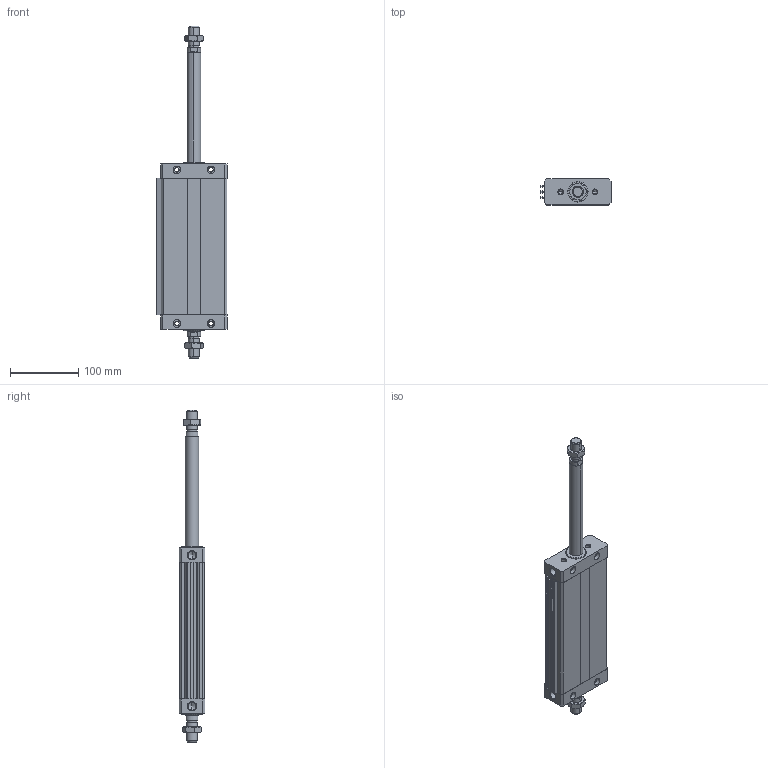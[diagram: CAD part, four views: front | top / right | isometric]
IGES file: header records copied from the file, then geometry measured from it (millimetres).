
Global section: file name: No Iges File Name specified; native system: Autodesk Inventor 2011; preprocessor: AutoDesk Inventor Iges Exporter R2011; author: airolcr1; date: 20101213.153352; units: millimetre
Bounding box: 102.5 x 38 x 486 mm (x, y, z)
Volume: 658923.5 mm3; surface area: 180207.3 mm2
Topology: 6 solids, 6 shells, 280 faces, 664 edges, 396 vertices
Faces by surface type: bspline 114, plane 98, cone 36, cylinder 18, revolution 14
